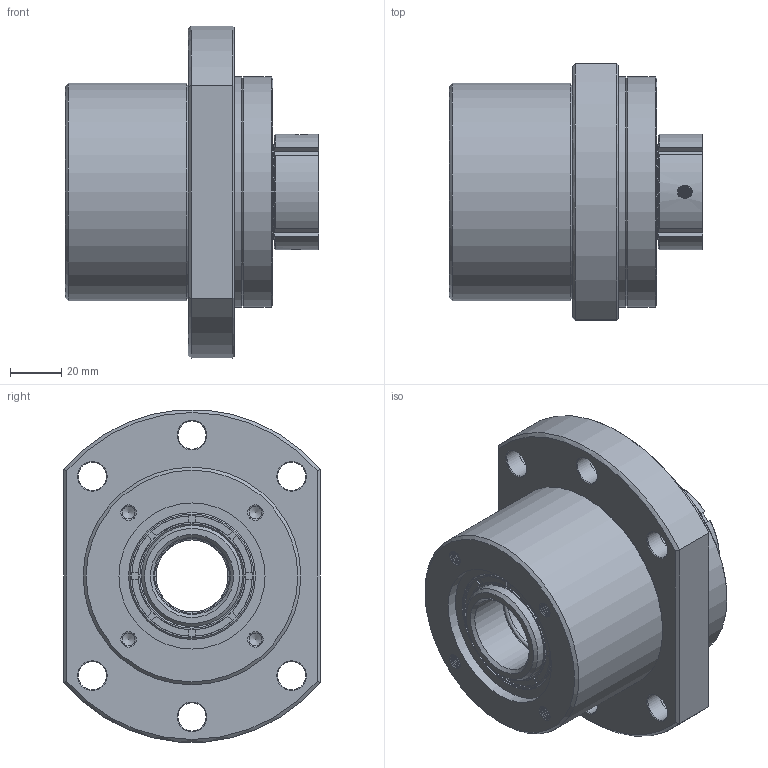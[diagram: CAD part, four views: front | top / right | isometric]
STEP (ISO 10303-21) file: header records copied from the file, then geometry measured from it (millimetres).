
FILE_DESCRIPTION(('STEP AP214'),'1');
FILE_NAME('WBKDFD (2).stp','2016-10-05T11:31:33',(' '),(' '),'Spatial InterOp 3D',' ',' ');
FILE_SCHEMA(('automotive_design'));
Length unit declared in the file: millimetre
Products named in the file (3): Assembly9; WBK30DFD; WBK30DFD_1
Assembly tree (2 placements, depth 2):
  Assembly9
    WBK30DFD
    WBK30DFD_1
Bounding box: 99 x 100 x 129.59 mm (x, y, z)
Volume: 450919.8 mm3; surface area: 108631.8 mm2
Topology: 2 solids, 26 shells, 1173 faces, 3011 edges, 1820 vertices
Faces by surface type: cone 540, plane 282, torus 138, sphere 108, cylinder 105
Full cylindrical faces by diameter (mm): 4.2 x2, 5 x8, 6.6 x6, 8 x6, 9 x6, 11 x6, 13 x6, 14 x6, 17.5 x6, 30 x5, 31.2 x1, 37 x1, 39.5 x7, 41.9 x4, 47.1 x10, 49.5 x3, 53.3 x2, 57 x2, 60.8 x1, 62 x5, 83.8 x1, 85 x1, 90 x2
Entity records: 54537 total; most frequent: CARTESIAN_POINT 11272, DIRECTION 4740, ORIENTED_EDGE 4274, STYLED_ITEM 3256, PRESENTATION_STYLE_ASSIGNMENT 3256, COLOUR_RGB 3256, AXIS2_PLACEMENT_3D 2162, EDGE_CURVE 2137
